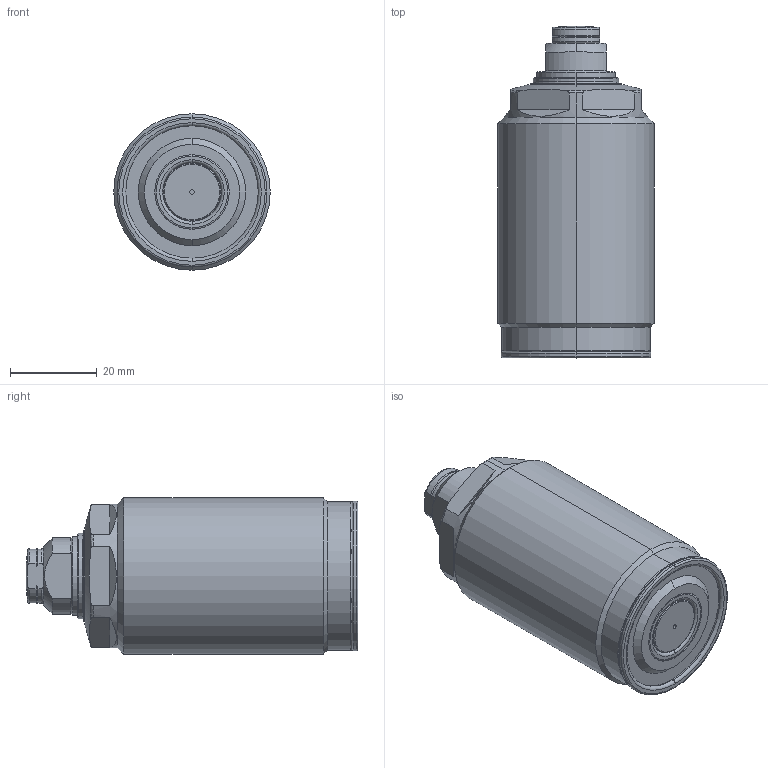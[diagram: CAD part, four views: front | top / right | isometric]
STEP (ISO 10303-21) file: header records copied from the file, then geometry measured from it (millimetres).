
FILE_DESCRIPTION(/* description */ (''),/* implementation_level */ '2;1');
FILE_NAME(/* name */ 'GSC04.stp',/* time_stamp */ '2025-01-05T12:59:52+08:00',/* author */ (''),/* organization */ (''),/* preprocessor_version */ 'ST-DEVELOPER v16.7',/* originating_system */ 'SIEMENS PLM Software NX 12.0',/* authorisation */ '');
FILE_SCHEMA (('AUTOMOTIVE_DESIGN { 1 0 10303 214 3 1 1 1 }'));
Length unit declared in the file: millimetre
Products named in the file (8): AS010864; TNC0403_ContactBolt_M10791; GSC04-05; GSC04-04; GSC04-02; GSC04-01; GSC04-03; TNC1003-x_step
Assembly tree (7 placements, depth 3):
  TNC1003-x_step
    GSC04-01
    GSC04-02
    GSC04-03
      TNC0403_ContactBolt_M10791
      AS010864
    GSC04-04
    GSC04-05
Bounding box: 36 x 76.4 x 36 mm (x, y, z)
Volume: 62721.8 mm3; surface area: 12936.7 mm2
Topology: 6 solids, 6 shells, 157 faces, 350 edges, 213 vertices
Faces by surface type: torus 47, cylinder 45, plane 37, cone 26, sphere 2
Entity records: 4905 total; most frequent: CARTESIAN_POINT 1140, DIRECTION 843, ORIENTED_EDGE 700, AXIS2_PLACEMENT_3D 374, EDGE_CURVE 350, VERTEX_POINT 213, CIRCLE 209, EDGE_LOOP 173
